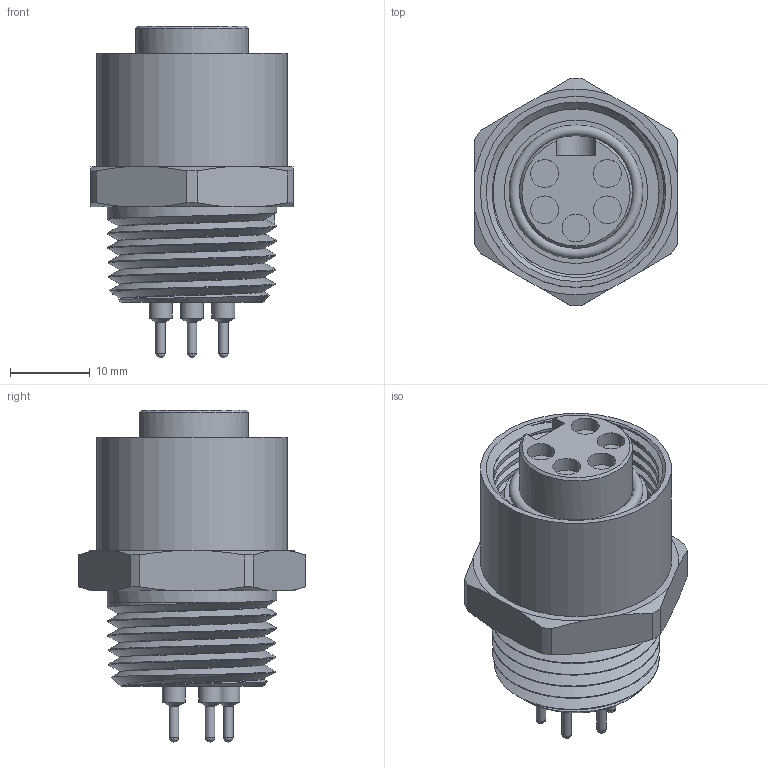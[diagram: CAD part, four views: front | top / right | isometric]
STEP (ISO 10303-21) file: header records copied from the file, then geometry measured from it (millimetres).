
FILE_DESCRIPTION (( 'STEP AP203' ), '1' );
FILE_NAME ('CM03A-PR5S-D-0(R1).STEP', '2022-04-06T08:04:09', ( '' ), ( '' ), 'SwSTEP 2.0', 'SolidWorks 2018', '' );
FILE_SCHEMA (( 'CONFIG_CONTROL_DESIGN' ));
Length unit declared in the file: millimetre
Products named in the file (1): CM03A-PR5S-D-0(R1)
Bounding box: 25.4 x 28.6 x 41.7 mm (x, y, z)
Volume: 12283.6 mm3; surface area: 5457.6 mm2
Topology: 1 solids, 1 shells, 92 faces, 231 edges, 145 vertices
Faces by surface type: cylinder 32, plane 24, cone 21, bspline 9, sphere 5, torus 1
Full cylindrical faces by diameter (mm): 1.2 x5, 2.9 x5, 3.5 x5, 14.2 x1, 18 x1, 20.86 x4, 21.34 x1, 24 x1
Entity records: 6078 total; most frequent: CARTESIAN_POINT 4230, DIRECTION 343, ORIENTED_EDGE 338, EDGE_CURVE 169, AXIS2_PLACEMENT_3D 153, EDGE_LOOP 132, VERTEX_POINT 125, FACE_OUTER_BOUND 108
